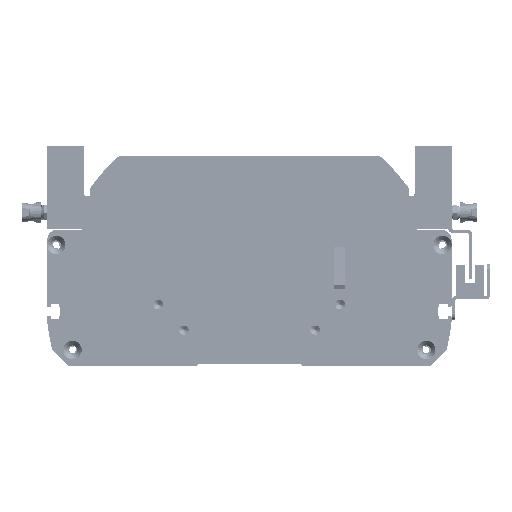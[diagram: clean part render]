
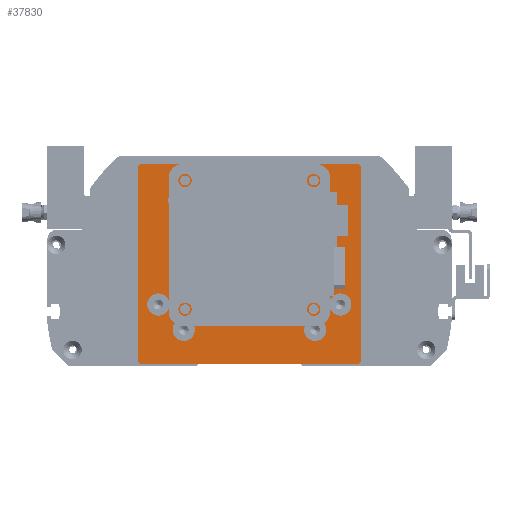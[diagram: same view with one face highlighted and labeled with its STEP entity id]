
A CAD part, front view. The second image highlights one B-rep face of the part: STEP entity #37830.
In plain terms, the highlighted planar face has unit normal (0, -1, 0) as drawn and (0, 0, 1) by its records, which use the part's own axes.
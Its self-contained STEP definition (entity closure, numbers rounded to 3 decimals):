
#2899=FACE_BOUND('',#9409,.T.);
#2900=FACE_BOUND('',#9410,.T.);
#2901=FACE_BOUND('',#9411,.T.);
#2902=FACE_BOUND('',#9412,.T.);
#2903=FACE_BOUND('',#9413,.T.);
#2904=FACE_BOUND('',#9414,.T.);
#2905=FACE_BOUND('',#9415,.T.);
#2906=FACE_BOUND('',#9416,.T.);
#2907=FACE_BOUND('',#9417,.T.);
#4939=CIRCLE('',#42354,2.459);
#4940=CIRCLE('',#42357,2.459);
#4941=CIRCLE('',#42365,2.459);
#4942=CIRCLE('',#42367,2.459);
#4945=CIRCLE('',#42372,5.5);
#4948=CIRCLE('',#42378,5.5);
#4951=CIRCLE('',#42384,5.5);
#4954=CIRCLE('',#42390,5.5);
#4956=CIRCLE('',#42395,35.);
#6951=FACE_OUTER_BOUND('',#9408,.T.);
#9408=EDGE_LOOP('',(#34370,#34371,#34372,#34373,#34374,#34375,#34376,#34377));
#9409=EDGE_LOOP('',(#34378));
#9410=EDGE_LOOP('',(#34379));
#9411=EDGE_LOOP('',(#34380));
#9412=EDGE_LOOP('',(#34381));
#9413=EDGE_LOOP('',(#34382));
#9414=EDGE_LOOP('',(#34383));
#9415=EDGE_LOOP('',(#34384));
#9416=EDGE_LOOP('',(#34385));
#9417=EDGE_LOOP('',(#34386));
#12244=LINE('',#67614,#15131);
#12247=LINE('',#67623,#15134);
#12250=LINE('',#67628,#15137);
#12252=LINE('',#67631,#15139);
#12253=LINE('',#67634,#15140);
#12255=LINE('',#67638,#15142);
#12257=LINE('',#67642,#15144);
#12270=LINE('',#67704,#15157);
#15131=VECTOR('',#53161,10.);
#15134=VECTOR('',#53170,10.);
#15137=VECTOR('',#53175,10.);
#15139=VECTOR('',#53179,10.);
#15140=VECTOR('',#53182,10.);
#15142=VECTOR('',#53186,10.);
#15144=VECTOR('',#53190,10.);
#15157=VECTOR('',#53269,10.);
#18701=VERTEX_POINT('',#67607);
#18702=VERTEX_POINT('',#67611);
#18703=VERTEX_POINT('',#67613);
#18704=VERTEX_POINT('',#67617);
#18705=VERTEX_POINT('',#67621);
#18706=VERTEX_POINT('',#67622);
#18707=VERTEX_POINT('',#67627);
#18708=VERTEX_POINT('',#67633);
#18709=VERTEX_POINT('',#67637);
#18710=VERTEX_POINT('',#67641);
#18711=VERTEX_POINT('',#67645);
#18712=VERTEX_POINT('',#67649);
#18715=VERTEX_POINT('',#67658);
#18718=VERTEX_POINT('',#67669);
#18721=VERTEX_POINT('',#67680);
#18724=VERTEX_POINT('',#67691);
#18726=VERTEX_POINT('',#67700);
#23938=EDGE_CURVE('',#18701,#18701,#4939,.T.);
#23941=EDGE_CURVE('',#18703,#18702,#12244,.T.);
#23943=EDGE_CURVE('',#18704,#18704,#4940,.T.);
#23945=EDGE_CURVE('',#18705,#18706,#12247,.T.);
#23948=EDGE_CURVE('',#18707,#18706,#12250,.T.);
#23950=EDGE_CURVE('',#18707,#18702,#12252,.T.);
#23951=EDGE_CURVE('',#18703,#18708,#12253,.T.);
#23953=EDGE_CURVE('',#18709,#18708,#12255,.T.);
#23955=EDGE_CURVE('',#18709,#18710,#12257,.T.);
#23957=EDGE_CURVE('',#18711,#18711,#4941,.T.);
#23959=EDGE_CURVE('',#18712,#18712,#4942,.T.);
#23963=EDGE_CURVE('',#18715,#18715,#4945,.T.);
#23968=EDGE_CURVE('',#18718,#18718,#4948,.T.);
#23973=EDGE_CURVE('',#18721,#18721,#4951,.T.);
#23978=EDGE_CURVE('',#18724,#18724,#4954,.T.);
#23982=EDGE_CURVE('',#18726,#18726,#4956,.T.);
#23984=EDGE_CURVE('',#18705,#18710,#12270,.T.);
#34370=ORIENTED_EDGE('',*,*,#23945,.F.);
#34371=ORIENTED_EDGE('',*,*,#23984,.T.);
#34372=ORIENTED_EDGE('',*,*,#23955,.F.);
#34373=ORIENTED_EDGE('',*,*,#23953,.T.);
#34374=ORIENTED_EDGE('',*,*,#23951,.F.);
#34375=ORIENTED_EDGE('',*,*,#23941,.T.);
#34376=ORIENTED_EDGE('',*,*,#23950,.F.);
#34377=ORIENTED_EDGE('',*,*,#23948,.T.);
#34378=ORIENTED_EDGE('',*,*,#23957,.T.);
#34379=ORIENTED_EDGE('',*,*,#23943,.T.);
#34380=ORIENTED_EDGE('',*,*,#23959,.T.);
#34381=ORIENTED_EDGE('',*,*,#23938,.T.);
#34382=ORIENTED_EDGE('',*,*,#23963,.T.);
#34383=ORIENTED_EDGE('',*,*,#23968,.T.);
#34384=ORIENTED_EDGE('',*,*,#23973,.T.);
#34385=ORIENTED_EDGE('',*,*,#23978,.T.);
#34386=ORIENTED_EDGE('',*,*,#23982,.T.);
#35851=PLANE('',#42397);
#37830=ADVANCED_FACE('',(#6951,#2899,#2900,#2901,#2902,#2903,#2904,#2905,
#2906,#2907),#35851,.T.);
#42354=AXIS2_PLACEMENT_3D('',#67608,#53155,#53156);
#42357=AXIS2_PLACEMENT_3D('',#67618,#53165,#53166);
#42365=AXIS2_PLACEMENT_3D('',#67646,#53194,#53195);
#42367=AXIS2_PLACEMENT_3D('',#67650,#53199,#53200);
#42372=AXIS2_PLACEMENT_3D('',#67659,#53210,#53211);
#42378=AXIS2_PLACEMENT_3D('',#67670,#53224,#53225);
#42384=AXIS2_PLACEMENT_3D('',#67681,#53238,#53239);
#42390=AXIS2_PLACEMENT_3D('',#67692,#53252,#53253);
#42395=AXIS2_PLACEMENT_3D('',#67701,#53264,#53265);
#42397=AXIS2_PLACEMENT_3D('',#67705,#53270,#53271);
#53155=DIRECTION('center_axis',(0.,0.,-1.));
#53156=DIRECTION('ref_axis',(1.,0.,0.));
#53161=DIRECTION('',(-1.,0.,0.));
#53165=DIRECTION('center_axis',(0.,0.,-1.));
#53166=DIRECTION('ref_axis',(1.,0.,0.));
#53170=DIRECTION('',(-0.707,0.707,0.));
#53175=DIRECTION('',(0.,-1.,0.));
#53179=DIRECTION('',(0.707,0.707,0.));
#53182=DIRECTION('',(0.707,-0.707,0.));
#53186=DIRECTION('',(0.,1.,0.));
#53190=DIRECTION('',(-0.707,-0.707,0.));
#53194=DIRECTION('center_axis',(0.,0.,-1.));
#53195=DIRECTION('ref_axis',(1.,0.,0.));
#53199=DIRECTION('center_axis',(0.,0.,-1.));
#53200=DIRECTION('ref_axis',(1.,0.,0.));
#53210=DIRECTION('center_axis',(0.,0.,-1.));
#53211=DIRECTION('ref_axis',(1.,0.,0.));
#53224=DIRECTION('center_axis',(0.,0.,-1.));
#53225=DIRECTION('ref_axis',(1.,0.,0.));
#53238=DIRECTION('center_axis',(0.,0.,-1.));
#53239=DIRECTION('ref_axis',(1.,0.,0.));
#53252=DIRECTION('center_axis',(0.,0.,-1.));
#53253=DIRECTION('ref_axis',(1.,0.,0.));
#53264=DIRECTION('center_axis',(0.,0.,-1.));
#53265=DIRECTION('ref_axis',(1.,0.,0.));
#53269=DIRECTION('',(1.,0.,0.));
#53270=DIRECTION('center_axis',(0.,0.,1.));
#53271=DIRECTION('ref_axis',(1.,0.,0.));
#67607=CARTESIAN_POINT('',(29.361,41.32,89.));
#67608=CARTESIAN_POINT('Origin',(31.82,41.32,89.));
#67611=CARTESIAN_POINT('',(-54.,49.5,89.));
#67613=CARTESIAN_POINT('',(54.,49.5,89.));
#67614=CARTESIAN_POINT('',(55.,49.5,89.));
#67617=CARTESIAN_POINT('',(-34.278,41.32,89.));
#67618=CARTESIAN_POINT('Origin',(-31.82,41.32,89.));
#67621=CARTESIAN_POINT('',(-54.,-49.5,89.));
#67622=CARTESIAN_POINT('',(-55.,-48.5,89.));
#67623=CARTESIAN_POINT('',(-53.125,-50.375,89.));
#67627=CARTESIAN_POINT('',(-55.,48.5,89.));
#67628=CARTESIAN_POINT('',(-55.,49.5,89.));
#67631=CARTESIAN_POINT('',(-53.125,50.375,89.));
#67633=CARTESIAN_POINT('',(55.,48.5,89.));
#67634=CARTESIAN_POINT('',(53.125,50.375,89.));
#67637=CARTESIAN_POINT('',(55.,-48.5,89.));
#67638=CARTESIAN_POINT('',(55.,-49.5,89.));
#67641=CARTESIAN_POINT('',(54.,-49.5,89.));
#67642=CARTESIAN_POINT('',(53.125,-50.375,89.));
#67645=CARTESIAN_POINT('',(29.361,-22.32,89.));
#67646=CARTESIAN_POINT('Origin',(31.82,-22.32,89.));
#67649=CARTESIAN_POINT('',(-34.278,-22.32,89.));
#67650=CARTESIAN_POINT('Origin',(-31.82,-22.32,89.));
#67658=CARTESIAN_POINT('',(27.,-32.5,89.));
#67659=CARTESIAN_POINT('Origin',(32.5,-32.5,89.));
#67669=CARTESIAN_POINT('',(-50.5,-20.,89.));
#67670=CARTESIAN_POINT('Origin',(-45.,-20.,89.));
#67680=CARTESIAN_POINT('',(-38.,-32.5,89.));
#67681=CARTESIAN_POINT('Origin',(-32.5,-32.5,89.));
#67691=CARTESIAN_POINT('',(39.5,-20.,89.));
#67692=CARTESIAN_POINT('Origin',(45.,-20.,89.));
#67700=CARTESIAN_POINT('',(-35.,9.5,89.));
#67701=CARTESIAN_POINT('Origin',(0.,9.5,89.));
#67704=CARTESIAN_POINT('',(-55.,-49.5,89.));
#67705=CARTESIAN_POINT('Origin',(0.,0.,
89.));
